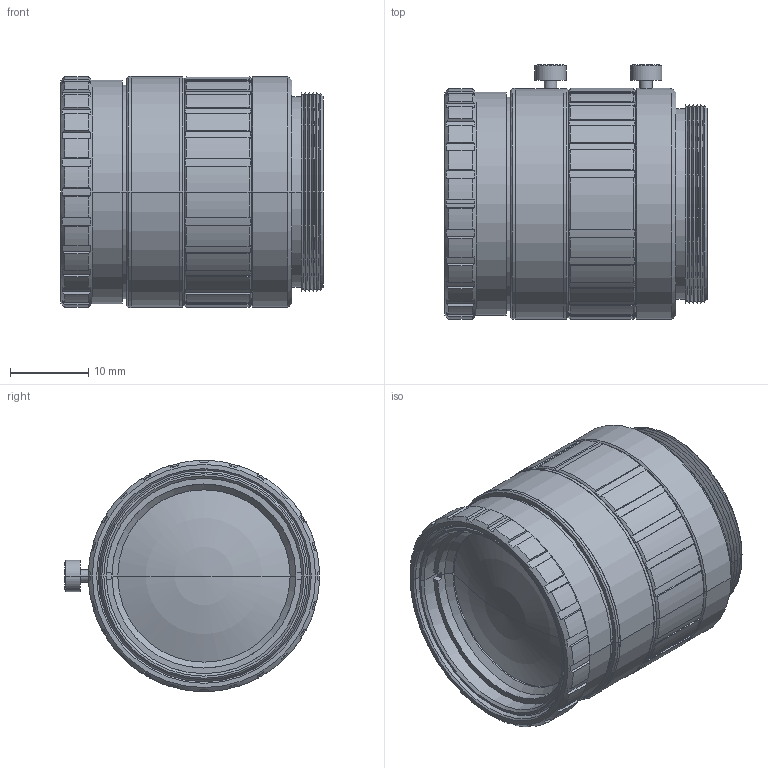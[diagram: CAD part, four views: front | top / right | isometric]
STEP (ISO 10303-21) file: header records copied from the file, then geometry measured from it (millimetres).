
FILE_DESCRIPTION(('CoCreate Modeling STEP Export'),'2;1');
FILE_NAME('HF35HA-1B_3D_Modeling.stp','2016-05-11T18:22:52',(''),(''),'CoCreate Modeling STEP processor for AP214 (Solid Model)','CoCreate Modeling 17.0 01-Apr-2010 (C) Parametric Technology GmbH','');
FILE_SCHEMA(('AUTOMOTIVE_DESIGN { 1 0 10303 214 1 1 1 1 }'));
Length unit declared in the file: millimetre
Products named in the file (2): HF35HA-1B
Assembly tree (1 placements, depth 2):
  HF35HA-1B
    HF35HA-1B
Bounding box: 33.5 x 32.55 x 29.5 mm (x, y, z)
Volume: 19525.8 mm3; surface area: 7066.8 mm2
Topology: 1 solids, 1 shells, 333 faces, 885 edges, 565 vertices
Faces by surface type: cylinder 136, plane 129, cone 64, torus 2, sphere 2
Entity records: 12091 total; most frequent: CARTESIAN_POINT 4229, ORIENTED_EDGE 1762, DIRECTION 1270, EDGE_CURVE 881, VERTEX_POINT 565, AXIS2_PLACEMENT_3D 472, EDGE_LOOP 348, FACE_OUTER_BOUND 333
